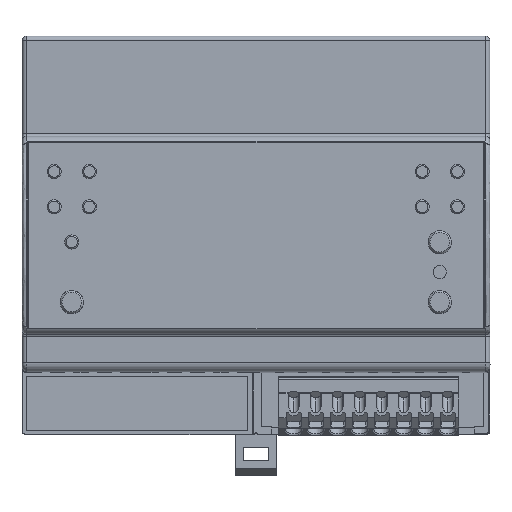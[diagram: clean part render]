
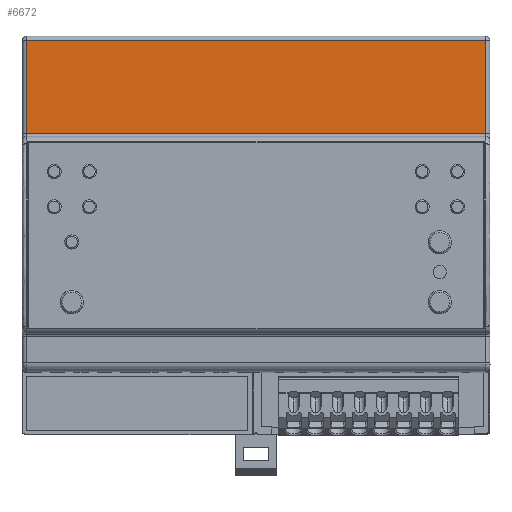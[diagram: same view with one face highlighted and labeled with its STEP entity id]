
A CAD part, top view. The second image highlights one B-rep face of the part: STEP entity #6672.
In plain terms, the highlighted planar face has unit normal (0, 0, 1).
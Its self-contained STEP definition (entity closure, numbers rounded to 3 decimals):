
#720 = VERTEX_POINT ( 'NONE', #4258 ) ;
#1240 = ORIENTED_EDGE ( 'NONE', *, *, #17399, .F. ) ;
#1408 = CARTESIAN_POINT ( 'NONE',  ( -0.907, 66.2, 37.9 ) ) ;
#1651 = DIRECTION ( 'NONE',  ( 0., -1., 0. ) ) ;
#3245 = DIRECTION ( 'NONE',  ( 1., 0., 0. ) ) ;
#3837 = LINE ( 'NONE', #46784, #34967 ) ;
#4199 = CARTESIAN_POINT ( 'NONE',  ( 51.25, 76.829, 37.9 ) ) ;
#4258 = CARTESIAN_POINT ( 'NONE',  ( -0.907, 87.457, 37.9 ) ) ;
#6672 = ADVANCED_FACE ( 'NONE', ( #17366 ), #16267, .T. ) ;
#7029 = LINE ( 'NONE', #19669, #38098 ) ;
#8269 = DIRECTION ( 'NONE',  ( 1., 0., 0. ) ) ;
#8897 = CARTESIAN_POINT ( 'NONE',  ( 103.407, 66.2, 37.9 ) ) ;
#9934 = VECTOR ( 'NONE', #3245, 1000. ) ;
#14576 = ORIENTED_EDGE ( 'NONE', *, *, #31081, .T. ) ;
#15110 = EDGE_CURVE ( 'NONE', #30946, #25485, #3837, .T. ) ;
#15449 = DIRECTION ( 'NONE',  ( 1., 0., 0. ) ) ;
#16267 = PLANE ( 'NONE',  #46035 ) ;
#17366 = FACE_OUTER_BOUND ( 'NONE', #44641, .T. ) ;
#17399 = EDGE_CURVE ( 'NONE', #720, #25485, #20670, .T. ) ;
#19669 = CARTESIAN_POINT ( 'NONE',  ( 51.25, 66.2, 37.9 ) ) ;
#20297 = EDGE_CURVE ( 'NONE', #44853, #30946, #7029, .T. ) ;
#20670 = LINE ( 'NONE', #39611, #9934 ) ;
#25485 = VERTEX_POINT ( 'NONE', #48920 ) ;
#27279 = VECTOR ( 'NONE', #1651, 1000. ) ;
#27914 = ORIENTED_EDGE ( 'NONE', *, *, #20297, .T. ) ;
#29830 = CARTESIAN_POINT ( 'NONE',  ( -0.907, 76.828, 37.9 ) ) ;
#30761 = DIRECTION ( 'NONE',  ( 0., 1., 0. ) ) ;
#30946 = VERTEX_POINT ( 'NONE', #8897 ) ;
#31081 = EDGE_CURVE ( 'NONE', #720, #44853, #37981, .T. ) ;
#32632 = DIRECTION ( 'NONE',  ( 0., 0., 1. ) ) ;
#34967 = VECTOR ( 'NONE', #30761, 1000. ) ;
#37981 = LINE ( 'NONE', #29830, #27279 ) ;
#38098 = VECTOR ( 'NONE', #15449, 1000. ) ;
#39611 = CARTESIAN_POINT ( 'NONE',  ( 51.25, 87.457, 37.9 ) ) ;
#40572 = ORIENTED_EDGE ( 'NONE', *, *, #15110, .T. ) ;
#44641 = EDGE_LOOP ( 'NONE', ( #40572, #1240, #14576, #27914 ) ) ;
#44853 = VERTEX_POINT ( 'NONE', #1408 ) ;
#46035 = AXIS2_PLACEMENT_3D ( 'NONE', #4199, #32632, #8269 ) ;
#46784 = CARTESIAN_POINT ( 'NONE',  ( 103.407, 76.829, 37.9 ) ) ;
#48920 = CARTESIAN_POINT ( 'NONE',  ( 103.407, 87.457, 37.9 ) ) ;
